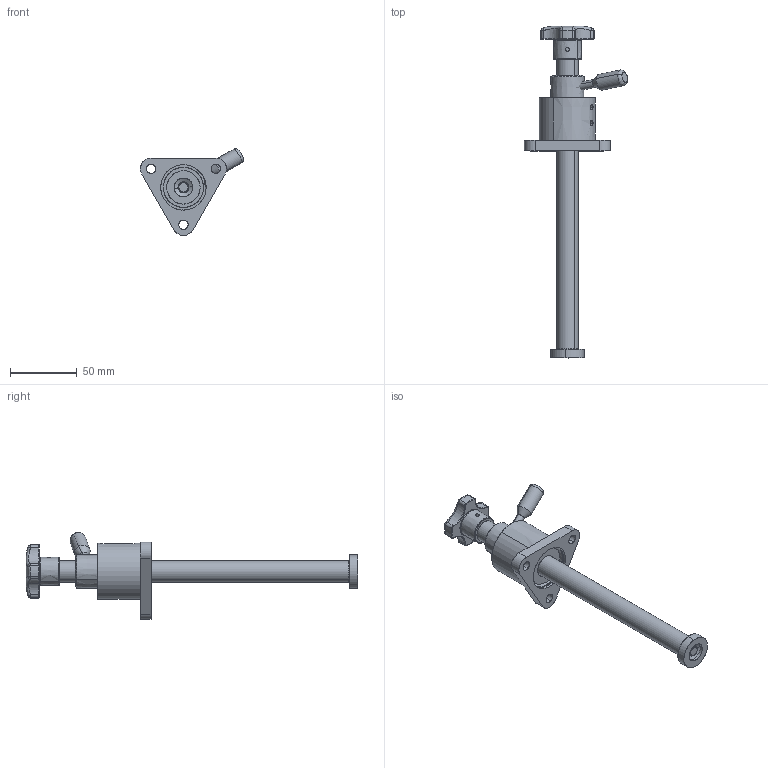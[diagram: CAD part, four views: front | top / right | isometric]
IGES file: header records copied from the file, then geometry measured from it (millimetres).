
Start section: SolidWorks IGES file using analytic representation for surfaces
Global section: file name: C:\Projetos\Grampos\Fusos\KFRF-16\KFRF-16.IGS; native system: SolidWorks 2015; preprocessor: SolidWorks 2015; author: Ricardo; date: 151202.082934; units: millimetre
Bounding box: 77.31 x 248.85 x 65.1 mm (x, y, z)
Surface area: 48472.4 mm2 (no closed solid volume)
Topology: 0 solids, 0 shells, 457 faces, 6880 edges, 6880 vertices
Faces by surface type: bspline 241, revolution 216
